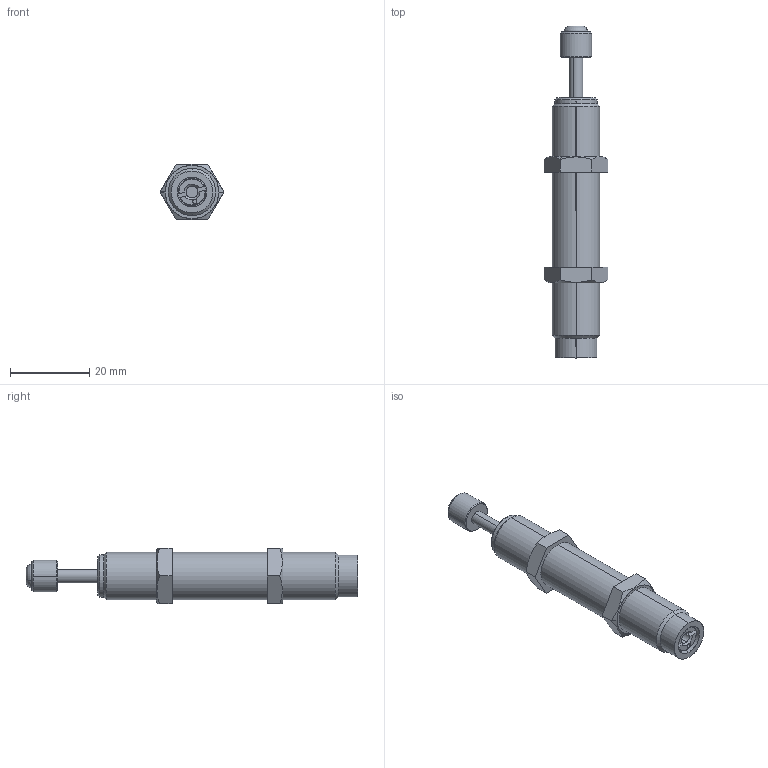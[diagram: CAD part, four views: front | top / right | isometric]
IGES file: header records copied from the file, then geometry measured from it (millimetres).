
Start section: SolidWorks IGES file using analytic representation for surfaces
Bounding box: 16.17 x 84 x 14 mm (x, y, z)
Surface area: 4169.3 mm2 (no closed solid volume)
Topology: 0 solids, 0 shells, 79 faces, 1022 edges, 1021 vertices
Faces by surface type: revolution 48, bspline 31
